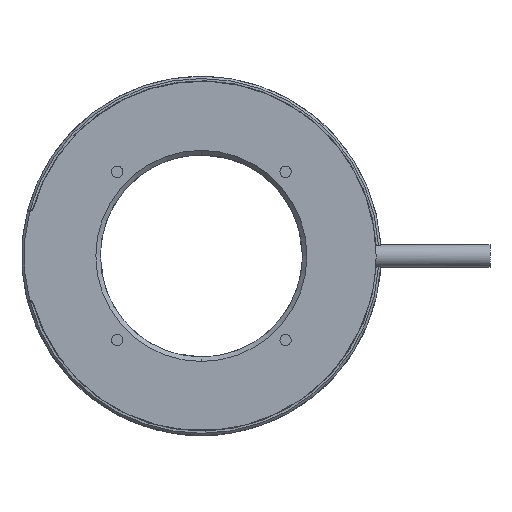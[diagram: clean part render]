
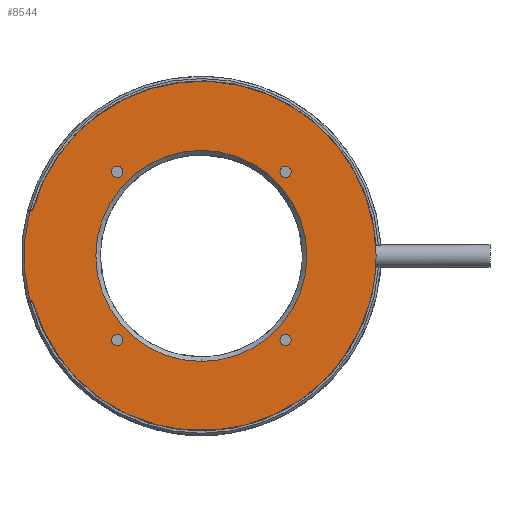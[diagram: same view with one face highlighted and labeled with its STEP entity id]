
A CAD part, top view. The second image highlights one B-rep face of the part: STEP entity #8544.
In plain terms, the highlighted planar face has unit normal (0, 0, 1).
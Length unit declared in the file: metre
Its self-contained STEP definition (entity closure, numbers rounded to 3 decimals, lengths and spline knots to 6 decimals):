
#1629=CARTESIAN_POINT('',(0.,0.,0.002));
#1630=DIRECTION('',(0.,0.,-1.));
#1631=DIRECTION('',(0.,-1.,0.));
#1632=AXIS2_PLACEMENT_3D('',#1629,#1630,#1631);
#1634=CARTESIAN_POINT('',(0.,0.,0.002));
#1635=DIRECTION('',(0.,0.,-1.));
#1636=DIRECTION('',(0.,1.,0.));
#1637=AXIS2_PLACEMENT_3D('',#1634,#1635,#1636);
#1639=CARTESIAN_POINT('',(0.018738,0.018738,0.002));
#1640=DIRECTION('',(0.,0.,-1.));
#1641=DIRECTION('',(0.,1.,0.));
#1642=AXIS2_PLACEMENT_3D('',#1639,#1640,#1641);
#1644=CARTESIAN_POINT('',(0.018738,0.018738,0.002));
#1645=DIRECTION('',(0.,0.,-1.));
#1646=DIRECTION('',(0.,-1.,0.));
#1647=AXIS2_PLACEMENT_3D('',#1644,#1645,#1646);
#1649=CARTESIAN_POINT('',(-0.018738,0.018738,0.002));
#1650=DIRECTION('',(0.,0.,-1.));
#1651=DIRECTION('',(-1.,0.,0.));
#1652=AXIS2_PLACEMENT_3D('',#1649,#1650,#1651);
#1654=CARTESIAN_POINT('',(-0.018738,0.018738,0.002));
#1655=DIRECTION('',(0.,0.,-1.));
#1656=DIRECTION('',(1.,0.,0.));
#1657=AXIS2_PLACEMENT_3D('',#1654,#1655,#1656);
#1659=CARTESIAN_POINT('',(-0.018738,-0.018738,0.002));
#1660=DIRECTION('',(0.,0.,-1.));
#1661=DIRECTION('',(0.,-1.,0.));
#1662=AXIS2_PLACEMENT_3D('',#1659,#1660,#1661);
#1664=CARTESIAN_POINT('',(-0.018738,-0.018738,0.002));
#1665=DIRECTION('',(0.,0.,-1.));
#1666=DIRECTION('',(0.,1.,0.));
#1667=AXIS2_PLACEMENT_3D('',#1664,#1665,#1666);
#1669=CARTESIAN_POINT('',(0.018738,-0.018738,0.002));
#1670=DIRECTION('',(0.,0.,-1.));
#1671=DIRECTION('',(1.,0.,0.));
#1672=AXIS2_PLACEMENT_3D('',#1669,#1670,#1671);
#1674=CARTESIAN_POINT('',(0.018738,-0.018738,0.002));
#1675=DIRECTION('',(0.,0.,-1.));
#1676=DIRECTION('',(-1.,0.,0.));
#1677=AXIS2_PLACEMENT_3D('',#1674,#1675,#1676);
#1679=CARTESIAN_POINT('',(-0.037975,0.0105,0.002));
#1680=DIRECTION('',(0.,0.,-1.));
#1681=DIRECTION('',(0.964,-0.266,0.));
#1682=AXIS2_PLACEMENT_3D('',#1679,#1680,#1681);
#1684=CARTESIAN_POINT('',(0.,0.,0.002));
#1685=DIRECTION('',(0.,0.,1.));
#1686=DIRECTION('',(1.,0.,0.));
#1687=AXIS2_PLACEMENT_3D('',#1684,#1685,#1686);
#1689=CARTESIAN_POINT('',(0.,0.,0.002));
#1690=DIRECTION('',(0.,0.,1.));
#1691=DIRECTION('',(0.964,-0.266,0.));
#1692=AXIS2_PLACEMENT_3D('',#1689,#1690,#1691);
#1694=CARTESIAN_POINT('',(0.,0.,0.002));
#1695=DIRECTION('',(0.,0.,1.));
#1696=DIRECTION('',(-0.964,-0.266,0.));
#1697=AXIS2_PLACEMENT_3D('',#1694,#1695,#1696);
#1699=CARTESIAN_POINT('',(-0.037975,-0.0105,0.002));
#1700=DIRECTION('',(0.,0.,-1.));
#1701=DIRECTION('',(0.,1.,0.));
#1702=AXIS2_PLACEMENT_3D('',#1699,#1700,#1701);
#1704=CARTESIAN_POINT('',(0.,0.,0.002));
#1705=DIRECTION('',(0.,0.,1.));
#1706=DIRECTION('',(-0.967,0.253,0.));
#1707=AXIS2_PLACEMENT_3D('',#1704,#1705,#1706);
#2803=DIRECTION('',(1.,0.,0.));
#2804=VECTOR('',#2803,0.000238);
#2805=CARTESIAN_POINT('',(-0.038213,0.01,0.002));
#2806=LINE('',#2805,#2804);
#2888=DIRECTION('',(-1.,0.,0.));
#2889=VECTOR('',#2888,0.000238);
#2890=CARTESIAN_POINT('',(-0.037975,-0.01,0.002));
#2891=LINE('',#2890,#2889);
#4954=CARTESIAN_POINT('',(-0.037493,-0.010367,0.002));
#4955=CARTESIAN_POINT('',(0.037493,-0.010367,0.002));
#4956=VERTEX_POINT('',#4954);
#4957=VERTEX_POINT('',#4955);
#4958=CARTESIAN_POINT('',(0.0389,0.,0.002));
#4959=VERTEX_POINT('',#4958);
#4960=CARTESIAN_POINT('',(-0.037493,0.010367,0.002));
#4961=VERTEX_POINT('',#4960);
#4962=CARTESIAN_POINT('',(-0.037975,-0.01,0.002));
#4963=VERTEX_POINT('',#4962);
#4964=CARTESIAN_POINT('',(-0.038213,-0.01,0.002));
#4965=VERTEX_POINT('',#4964);
#4966=CARTESIAN_POINT('',(-0.038213,0.01,0.002));
#4967=VERTEX_POINT('',#4966);
#4968=CARTESIAN_POINT('',(-0.037975,0.01,0.002));
#4969=VERTEX_POINT('',#4968);
#4970=CARTESIAN_POINT('',(0.017488,-0.018738,0.002));
#4971=CARTESIAN_POINT('',(0.019988,-0.018738,0.002));
#4972=VERTEX_POINT('',#4970);
#4973=VERTEX_POINT('',#4971);
#4974=CARTESIAN_POINT('',(-0.018738,-0.017488,0.002));
#4975=CARTESIAN_POINT('',(-0.018738,-0.019988,0.002));
#4976=VERTEX_POINT('',#4974);
#4977=VERTEX_POINT('',#4975);
#4978=CARTESIAN_POINT('',(-0.017488,0.018738,0.002));
#4979=CARTESIAN_POINT('',(-0.019988,0.018738,0.002));
#4980=VERTEX_POINT('',#4978);
#4981=VERTEX_POINT('',#4979);
#4982=CARTESIAN_POINT('',(0.018738,0.017488,0.002));
#4983=CARTESIAN_POINT('',(0.018738,0.019988,0.002));
#4984=VERTEX_POINT('',#4982);
#4985=VERTEX_POINT('',#4983);
#4986=CARTESIAN_POINT('',(0.,0.0235,0.002));
#4987=CARTESIAN_POINT('',(0.,-0.0235,0.002));
#4988=VERTEX_POINT('',#4986);
#4989=VERTEX_POINT('',#4987);
#8493=CARTESIAN_POINT('',(0.,0.,0.002));
#8494=DIRECTION('',(0.,0.,-1.));
#8495=DIRECTION('',(0.,1.,0.));
#8496=AXIS2_PLACEMENT_3D('',#8493,#8494,#8495);
#8497=PLANE('',#8496);
#8499=ORIENTED_EDGE('',*,*,#8498,.F.);
#8501=ORIENTED_EDGE('',*,*,#8500,.F.);
#8503=ORIENTED_EDGE('',*,*,#8502,.F.);
#8505=ORIENTED_EDGE('',*,*,#8504,.F.);
#8507=ORIENTED_EDGE('',*,*,#8506,.F.);
#8509=ORIENTED_EDGE('',*,*,#8508,.T.);
#8511=ORIENTED_EDGE('',*,*,#8510,.F.);
#8513=ORIENTED_EDGE('',*,*,#8512,.T.);
#8514=EDGE_LOOP('',(#8499,#8501,#8503,#8505,#8507,#8509,#8511,#8513));
#8515=FACE_OUTER_BOUND('',#8514,.F.);
#8517=ORIENTED_EDGE('',*,*,#8516,.F.);
#8519=ORIENTED_EDGE('',*,*,#8518,.F.);
#8520=EDGE_LOOP('',(#8517,#8519));
#8521=FACE_BOUND('',#8520,.F.);
#8523=ORIENTED_EDGE('',*,*,#8522,.F.);
#8525=ORIENTED_EDGE('',*,*,#8524,.F.);
#8526=EDGE_LOOP('',(#8523,#8525));
#8527=FACE_BOUND('',#8526,.F.);
#8529=ORIENTED_EDGE('',*,*,#8528,.F.);
#8531=ORIENTED_EDGE('',*,*,#8530,.F.);
#8532=EDGE_LOOP('',(#8529,#8531));
#8533=FACE_BOUND('',#8532,.F.);
#8535=ORIENTED_EDGE('',*,*,#8534,.F.);
#8537=ORIENTED_EDGE('',*,*,#8536,.F.);
#8538=EDGE_LOOP('',(#8535,#8537));
#8539=FACE_BOUND('',#8538,.F.);
#8540=ORIENTED_EDGE('',*,*,#8472,.F.);
#8541=ORIENTED_EDGE('',*,*,#8486,.F.);
#8542=EDGE_LOOP('',(#8540,#8541));
#8543=FACE_BOUND('',#8542,.F.);
#8544=ADVANCED_FACE('',(#8515,#8521,#8527,#8533,#8539,#8543),#8497,.F.);
#1633=CIRCLE('',#1632,0.0235);
#1638=CIRCLE('',#1637,0.0235);
#1643=CIRCLE('',#1642,0.00125);
#1648=CIRCLE('',#1647,0.00125);
#1653=CIRCLE('',#1652,0.00125);
#1658=CIRCLE('',#1657,0.00125);
#1663=CIRCLE('',#1662,0.00125);
#1668=CIRCLE('',#1667,0.00125);
#1673=CIRCLE('',#1672,0.00125);
#1678=CIRCLE('',#1677,0.00125);
#1683=CIRCLE('',#1682,0.0005);
#1688=CIRCLE('',#1687,0.0389);
#1693=CIRCLE('',#1692,0.0389);
#1698=CIRCLE('',#1697,0.0389);
#1703=CIRCLE('',#1702,0.0005);
#1708=CIRCLE('',#1707,0.0395);
#8472=EDGE_CURVE('',#4989,#4988,#1633,.T.);
#8486=EDGE_CURVE('',#4988,#4989,#1638,.T.);
#8498=EDGE_CURVE('',#4961,#4969,#1683,.T.);
#8500=EDGE_CURVE('',#4959,#4961,#1688,.T.);
#8502=EDGE_CURVE('',#4957,#4959,#1693,.T.);
#8504=EDGE_CURVE('',#4956,#4957,#1698,.T.);
#8506=EDGE_CURVE('',#4963,#4956,#1703,.T.);
#8508=EDGE_CURVE('',#4963,#4965,#2891,.T.);
#8510=EDGE_CURVE('',#4967,#4965,#1708,.T.);
#8512=EDGE_CURVE('',#4967,#4969,#2806,.T.);
#8516=EDGE_CURVE('',#4985,#4984,#1643,.T.);
#8518=EDGE_CURVE('',#4984,#4985,#1648,.T.);
#8522=EDGE_CURVE('',#4981,#4980,#1653,.T.);
#8524=EDGE_CURVE('',#4980,#4981,#1658,.T.);
#8528=EDGE_CURVE('',#4977,#4976,#1663,.T.);
#8530=EDGE_CURVE('',#4976,#4977,#1668,.T.);
#8534=EDGE_CURVE('',#4973,#4972,#1673,.T.);
#8536=EDGE_CURVE('',#4972,#4973,#1678,.T.);
